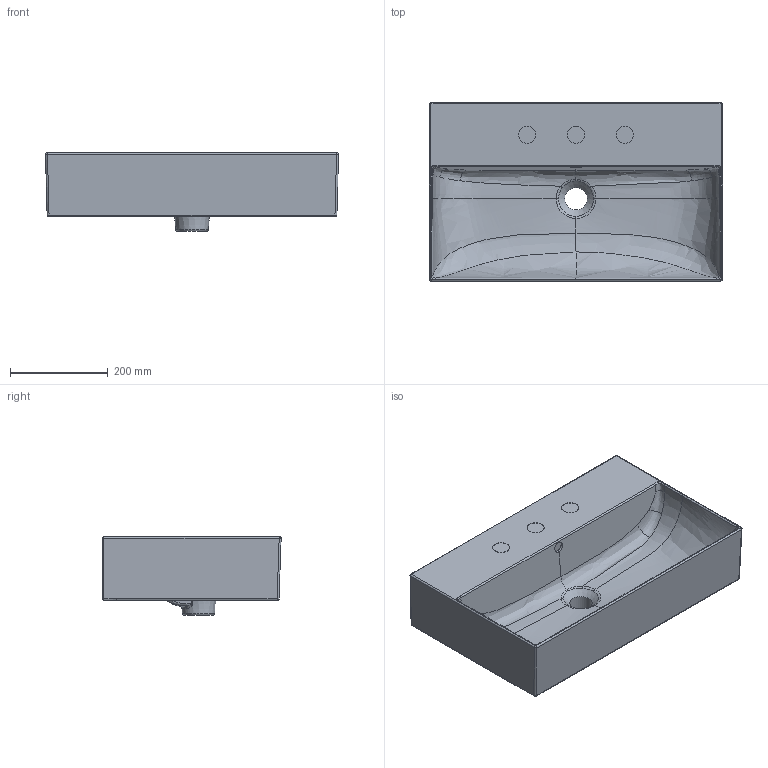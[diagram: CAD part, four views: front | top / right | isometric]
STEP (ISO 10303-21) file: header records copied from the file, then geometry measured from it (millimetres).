
FILE_DESCRIPTION(/* description */ (''),/* implementation_level */ '2;1');
FILE_NAME(/* name */ 'LAVABO_60X36.5_PROTAP_01_20200317.stp',/* time_stamp */ '2020-03-17T10:25:11+01:00',/* author */ (''),/* organization */ (''),/* preprocessor_version */ 'ST-DEVELOPER v16.7',/* originating_system */ 'SIEMENS PLM Software NX 12.0',/* authorisation */ '');
FILE_SCHEMA (('AUTOMOTIVE_DESIGN { 1 0 10303 214 3 1 1 1 }'));
Products named in the file (1): Cava26A0CAF5btrc
Bounding box: 599.84 x 364.89 x 160.02 mm (x, y, z)
Volume: 10221083 mm3; surface area: 885089 mm2
Topology: 1 solids, 1 shells, 380 faces, 917 edges, 529 vertices
Faces by surface type: bspline 203, cylinder 93, plane 47, sphere 16, torus 14, extrusion 4, cone 3
Full cylindrical faces by diameter (mm): 10 x6, 22 x1, 35 x3, 46 x1, 50 x3
Entity records: 37321 total; most frequent: CARTESIAN_POINT 30067, ORIENTED_EDGE 1748, DIRECTION 1125, EDGE_CURVE 874, VERTEX_POINT 525, AXIS2_PLACEMENT_3D 479, EDGE_LOOP 415, B_SPLINE_CURVE_WITH_KNOTS 406
